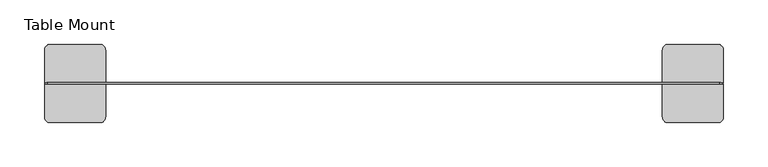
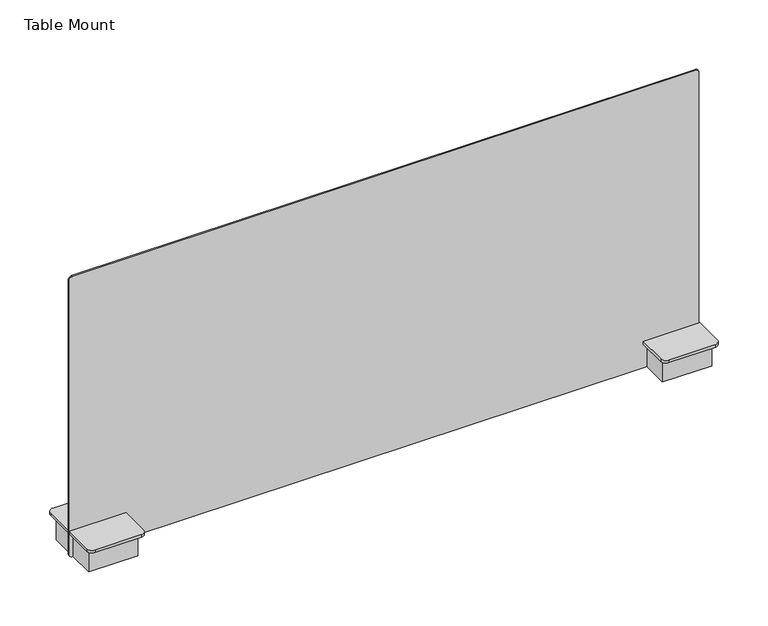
"""IFC4 building model written with IfcOpenShell, lengths in millimetres: furniture geometry, Steelcase Turnstone - Bivi - Accessories - Screen - Metal : Table Mount."""

from ifc_helpers import new_model, si_unit, point, frame, frame_2d, origin, place, context, project, spatial, polyline, circle_curve, trimmed, segment, composite_curve, outline, extrude, source, transform, mapped, element, save


def table_mount_8f96cead(model_context):
    return source(origin(), model_context, "Body", "SweptSolid", [
        extrude(outline(composite_curve([segment(polyline([(1051.897743, 810.641), (1051.897743, 56.1898107)]), True, "CONTINUOUS"), segment(trimmed(circle_curve(frame_2d((1048.1589323, 56.1898107)), 3.7388107), [point((1051.897743, 56.1898107))], [point((1048.1589323, 52.451))], False, "CARTESIAN"), True, "CONTINUOUS"), segment(polyline([(1048.1589323, 52.451), (697.23, 52.451)]), True, "CONTINUOUS"), segment(trimmed(circle_curve(frame_2d((697.23, 56.261)), 3.81), [point((697.23, 52.451))], [point((693.42, 56.261))], False, "CARTESIAN"), True, "CONTINUOUS"), segment(polyline([(693.42, 56.261), (693.42, 810.641)]), True, "CONTINUOUS"), segment(trimmed(circle_curve(frame_2d((697.23, 810.641)), 3.81), [point((693.42, 810.641))], [point((697.23, 814.451))], False, "CARTESIAN"), True, "CONTINUOUS"), segment(polyline([(697.23, 814.451), (1048.087743, 814.451)]), True, "CONTINUOUS"), segment(trimmed(circle_curve(frame_2d((1048.087743, 810.641)), 3.81), [point((1048.087743, 814.451))], [point((1051.897743, 810.641))], False, "CARTESIAN"), True, "CONTINUOUS")], self_intersect=False)), frame((0.0, 232.4989046, 0.0), z_axis=(0.0, 1.0, 0.0), x_axis=(0.0, 0.0, 1.0)), (0.0, 0.0, 1.0), 1.6002),
        extrude(outline(polyline([(116.586, 267.1318046), (116.586, 234.0991046), (56.896, 234.0991046), (56.896, 267.1318046), (116.586, 267.1318046)])), frame((0.0, 0.0, 693.42), z_axis=(0.0, 0.0, 1.0), x_axis=(1.0, 0.0, 0.0)), (0.0, 0.0, 1.0), 30.48),
        extrude(outline(polyline([(116.586, 232.4989046), (116.586, 199.4662046), (56.896, 199.4662046), (56.896, 232.4989046), (116.586, 232.4989046)])), frame((0.0, 0.0, 693.42), z_axis=(0.0, 0.0, 1.0), x_axis=(1.0, 0.0, 0.0)), (0.0, 0.0, 1.0), 30.48),
        extrude(outline(polyline([(751.2175127, 267.1318046), (810.9075127, 267.1318046), (810.9075127, 234.0991046), (751.2175127, 234.0991046), (751.2175127, 267.1318046)])), frame((0.0, 0.0, 693.42), z_axis=(0.0, 0.0, 1.0), x_axis=(1.0, 0.0, 0.0)), (0.0, 0.0, 1.0), 30.48),
        extrude(outline(polyline([(751.2175127, 232.4989046), (810.9075127, 232.4989046), (810.9075127, 199.4662046), (751.2175127, 199.4662046), (751.2175127, 232.4989046)])), frame((0.0, 0.0, 693.42), z_axis=(0.0, 0.0, 1.0), x_axis=(1.0, 0.0, 0.0)), (0.0, 0.0, 1.0), 30.48),
        extrude(outline(composite_curve([segment(polyline([(121.031, 234.0991046), (52.451, 234.0991046), (52.451, 271.0053046)]), True, "CONTINUOUS"), segment(trimmed(circle_curve(frame_2d((58.801, 271.0053046)), 6.35), [point((52.451, 271.0053046))], [point((58.801, 277.3553046))], False, "CARTESIAN"), True, "CONTINUOUS"), segment(polyline([(58.801, 277.3553046), (114.681, 277.3553046)]), True, "CONTINUOUS"), segment(trimmed(circle_curve(frame_2d((114.681, 271.0053046)), 6.35), [point((114.681, 277.3553046))], [point((121.031, 271.0053046))], False, "CARTESIAN"), True, "CONTINUOUS"), segment(polyline([(121.031, 271.0053046), (121.031, 234.0991046)]), True, "CONTINUOUS")], self_intersect=False)), frame((0.0, 0.0, 723.9), z_axis=(0.0, 0.0, 1.0), x_axis=(1.0, 0.0, 0.0)), (0.0, 0.0, 1.0), 3.429),
        extrude(outline(composite_curve([segment(polyline([(121.031, 232.4989046), (121.031, 195.5927046)]), True, "CONTINUOUS"), segment(trimmed(circle_curve(frame_2d((114.681, 195.5927046)), 6.35), [point((121.031, 195.5927046))], [point((114.681, 189.2427046))], False, "CARTESIAN"), True, "CONTINUOUS"), segment(polyline([(114.681, 189.2427046), (58.801, 189.2427046)]), True, "CONTINUOUS"), segment(trimmed(circle_curve(frame_2d((58.801, 195.5927046)), 6.35), [point((58.801, 189.2427046))], [point((52.451, 195.5927046))], False, "CARTESIAN"), True, "CONTINUOUS"), segment(polyline([(52.451, 195.5927046), (52.451, 232.4989046), (121.031, 232.4989046)]), True, "CONTINUOUS")], self_intersect=False)), frame((0.0, 0.0, 723.9), z_axis=(0.0, 0.0, 1.0), x_axis=(1.0, 0.0, 0.0)), (0.0, 0.0, 1.0), 3.429),
        extrude(outline(composite_curve([segment(polyline([(746.7725127, 234.0991046), (746.7725127, 271.0053046)]), True, "CONTINUOUS"), segment(trimmed(circle_curve(frame_2d((753.1225127, 271.0053046)), 6.35), [point((746.7725127, 271.0053046))], [point((753.1225127, 277.3553046))], False, "CARTESIAN"), True, "CONTINUOUS"), segment(polyline([(753.1225127, 277.3553046), (809.0025127, 277.3553046)]), True, "CONTINUOUS"), segment(trimmed(circle_curve(frame_2d((809.0025127, 271.0053046)), 6.35), [point((809.0025127, 277.3553046))], [point((815.3525127, 271.0053046))], False, "CARTESIAN"), True, "CONTINUOUS"), segment(polyline([(815.3525127, 271.0053046), (815.3525127, 234.0991046), (746.7725127, 234.0991046)]), True, "CONTINUOUS")], self_intersect=False)), frame((0.0, 0.0, 723.9), z_axis=(0.0, 0.0, 1.0), x_axis=(1.0, 0.0, 0.0)), (0.0, 0.0, 1.0), 3.429),
        extrude(outline(composite_curve([segment(polyline([(746.7725127, 232.4989046), (815.3525127, 232.4989046), (815.3525127, 195.5927046)]), True, "CONTINUOUS"), segment(trimmed(circle_curve(frame_2d((809.0025127, 195.5927046)), 6.35), [point((815.3525127, 195.5927046))], [point((809.0025127, 189.2427046))], False, "CARTESIAN"), True, "CONTINUOUS"), segment(polyline([(809.0025127, 189.2427046), (753.1225127, 189.2427046)]), True, "CONTINUOUS"), segment(trimmed(circle_curve(frame_2d((753.1225127, 195.5927046)), 6.35), [point((753.1225127, 189.2427046))], [point((746.7725127, 195.5927046))], False, "CARTESIAN"), True, "CONTINUOUS"), segment(polyline([(746.7725127, 195.5927046), (746.7725127, 232.4989046)]), True, "CONTINUOUS")], self_intersect=False)), frame((0.0, 0.0, 723.9), z_axis=(0.0, 0.0, 1.0), x_axis=(1.0, 0.0, 0.0)), (0.0, 0.0, 1.0), 3.429),
    ])


if __name__ == "__main__":
    model = new_model("IFC4")
    model_context = context("Model", 3, world=origin())
    ifc_project = project(units=[si_unit("LENGTHUNIT", "METRE", prefix="MILLI")], contexts=[model_context])
    site = spatial("IfcSite", under=ifc_project)
    building = spatial("IfcBuilding", under=site)
    placement = place(None, origin())
    table_mount_shape = table_mount_8f96cead(model_context)
    element("IfcFurniture", 1, ObjectType="Steelcase Turnstone - Bivi - Accessories - Screen - Metal : Table Mount", at=placement, inside=building, context=model_context, shape_type="MappedRepresentation", body=[
        mapped(table_mount_shape, transform((0.0, 0.0, 0.0), x_axis=(1.0, 0.0, 0.0), y_axis=(0.0, 1.0, 0.0), z_axis=(0.0, 0.0, 1.0))),
    ])
    save(model, "model.ifc")
